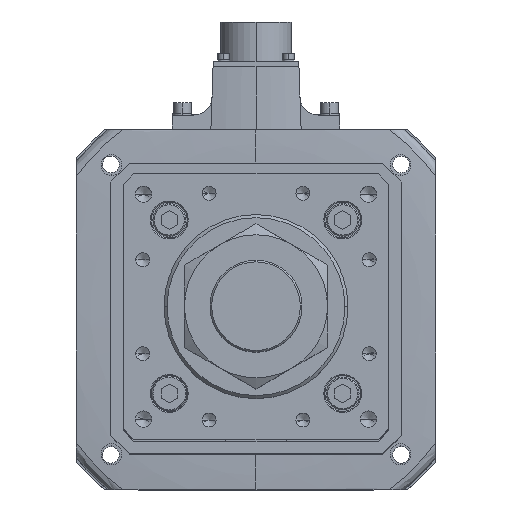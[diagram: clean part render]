
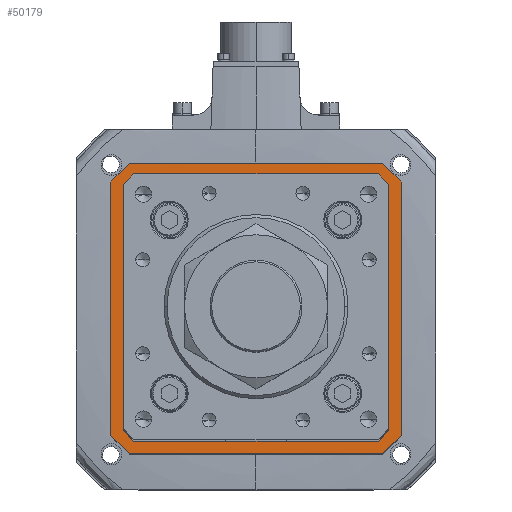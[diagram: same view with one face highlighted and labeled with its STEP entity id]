
A CAD part, top view. The second image highlights one B-rep face of the part: STEP entity #50179.
In plain terms, the highlighted planar face has unit normal (0, 0, 1).
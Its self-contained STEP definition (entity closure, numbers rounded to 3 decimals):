
#132 = DIRECTION ( 'NONE',  ( -1., 0., 0. ) ) ;
#451 = EDGE_CURVE ( 'NONE', #30905, #21221, #53821, .T. ) ;
#578 = ORIENTED_EDGE ( 'NONE', *, *, #54378, .T. ) ;
#1372 = DIRECTION ( 'NONE',  ( -0.707, -0.707, 0. ) ) ;
#1510 = EDGE_CURVE ( 'NONE', #53651, #2916, #4370, .T. ) ;
#1517 = VECTOR ( 'NONE', #3118, 1000. ) ;
#1856 = ORIENTED_EDGE ( 'NONE', *, *, #16974, .T. ) ;
#2055 = CARTESIAN_POINT ( 'NONE',  ( -60.896, 60.896, -142. ) ) ;
#2561 = LINE ( 'NONE', #8371, #11196 ) ;
#2916 = VERTEX_POINT ( 'NONE', #45771 ) ;
#3118 = DIRECTION ( 'NONE',  ( -0.707, 0.707, 0. ) ) ;
#3249 = CARTESIAN_POINT ( 'NONE',  ( 62., 71., -142. ) ) ;
#3358 = CARTESIAN_POINT ( 'NONE',  ( -62., -71., -142. ) ) ;
#3830 = CARTESIAN_POINT ( 'NONE',  ( 71., 62., -142. ) ) ;
#4078 = VERTEX_POINT ( 'NONE', #22521 ) ;
#4330 = DIRECTION ( 'NONE',  ( -0.707, 0.707, 0. ) ) ;
#4370 = LINE ( 'NONE', #52454, #12977 ) ;
#5412 = CARTESIAN_POINT ( 'NONE',  ( 71., 62., -142. ) ) ;
#5796 = ORIENTED_EDGE ( 'NONE', *, *, #54681, .F. ) ;
#6401 = LINE ( 'NONE', #28744, #39732 ) ;
#6523 = CARTESIAN_POINT ( 'NONE',  ( 60.896, 60.896, -142. ) ) ;
#6916 = DIRECTION ( 'NONE',  ( 0., 1., 0. ) ) ;
#7156 = VERTEX_POINT ( 'NONE', #34613 ) ;
#7245 = VERTEX_POINT ( 'NONE', #41891 ) ;
#7625 = CARTESIAN_POINT ( 'NONE',  ( -63., 58.793, -142. ) ) ;
#8371 = CARTESIAN_POINT ( 'NONE',  ( 0., -63., -142. ) ) ;
#8470 = VECTOR ( 'NONE', #11500, 1000. ) ;
#9877 = CARTESIAN_POINT ( 'NONE',  ( 71., -62., -142. ) ) ;
#10239 = VECTOR ( 'NONE', #27826, 1000. ) ;
#11196 = VECTOR ( 'NONE', #42686, 1000. ) ;
#11500 = DIRECTION ( 'NONE',  ( 0.707, -0.707, 0. ) ) ;
#11972 = DIRECTION ( 'NONE',  ( 0., 1., 0. ) ) ;
#12977 = VECTOR ( 'NONE', #1372, 1000. ) ;
#13801 = CARTESIAN_POINT ( 'NONE',  ( -62., 71., -142. ) ) ;
#13839 = EDGE_CURVE ( 'NONE', #30458, #42208, #49487, .T. ) ;
#13909 = AXIS2_PLACEMENT_3D ( 'NONE', #15515, #32658, #36925 ) ;
#14398 = CARTESIAN_POINT ( 'NONE',  ( -62., 71., -142. ) ) ;
#15119 = CARTESIAN_POINT ( 'NONE',  ( 63., 0., -142. ) ) ;
#15376 = EDGE_LOOP ( 'NONE', ( #578, #36917, #49768, #26969, #19725, #1856, #38672, #21386 ) ) ;
#15515 = CARTESIAN_POINT ( 'NONE',  ( 0., 0., -142. ) ) ;
#16232 = LINE ( 'NONE', #28198, #10239 ) ;
#16502 = FACE_OUTER_BOUND ( 'NONE', #35375, .T. ) ;
#16747 = VECTOR ( 'NONE', #42579, 1000. ) ;
#16974 = EDGE_CURVE ( 'NONE', #24962, #22583, #48620, .T. ) ;
#17089 = CARTESIAN_POINT ( 'NONE',  ( 63., 58.793, -142. ) ) ;
#17183 = VERTEX_POINT ( 'NONE', #24330 ) ;
#17688 = EDGE_CURVE ( 'NONE', #17183, #46154, #41870, .T. ) ;
#18629 = VECTOR ( 'NONE', #40073, 1000. ) ;
#19725 = ORIENTED_EDGE ( 'NONE', *, *, #34295, .T. ) ;
#20078 = EDGE_CURVE ( 'NONE', #22583, #17183, #16232, .T. ) ;
#20303 = VECTOR ( 'NONE', #6916, 1000. ) ;
#20974 = ORIENTED_EDGE ( 'NONE', *, *, #41421, .F. ) ;
#21221 = VERTEX_POINT ( 'NONE', #14398 ) ;
#21386 = ORIENTED_EDGE ( 'NONE', *, *, #17688, .T. ) ;
#22104 = CARTESIAN_POINT ( 'NONE',  ( 71., 62., -142. ) ) ;
#22273 = LINE ( 'NONE', #45507, #20303 ) ;
#22521 = CARTESIAN_POINT ( 'NONE',  ( 62., -71., -142. ) ) ;
#22583 = VERTEX_POINT ( 'NONE', #29540 ) ;
#22796 = LINE ( 'NONE', #25062, #1517 ) ;
#23074 = VERTEX_POINT ( 'NONE', #3249 ) ;
#24330 = CARTESIAN_POINT ( 'NONE',  ( 58.793, 63., -142. ) ) ;
#24848 = VERTEX_POINT ( 'NONE', #3358 ) ;
#24962 = VERTEX_POINT ( 'NONE', #7625 ) ;
#25062 = CARTESIAN_POINT ( 'NONE',  ( -60.896, -60.896, -142. ) ) ;
#25406 = VECTOR ( 'NONE', #132, 1000. ) ;
#26050 = EDGE_CURVE ( 'NONE', #24848, #7156, #55287, .T. ) ;
#26088 = LINE ( 'NONE', #15119, #28782 ) ;
#26969 = ORIENTED_EDGE ( 'NONE', *, *, #46651, .T. ) ;
#27389 = LINE ( 'NONE', #42319, #31419 ) ;
#27826 = DIRECTION ( 'NONE',  ( 1., 0., 0. ) ) ;
#28198 = CARTESIAN_POINT ( 'NONE',  ( 0., 63., -142. ) ) ;
#28744 = CARTESIAN_POINT ( 'NONE',  ( -63., 0., -142. ) ) ;
#28782 = VECTOR ( 'NONE', #49085, 1000. ) ;
#29203 = ORIENTED_EDGE ( 'NONE', *, *, #26050, .F. ) ;
#29255 = DIRECTION ( 'NONE',  ( 1., 0., 0. ) ) ;
#29540 = CARTESIAN_POINT ( 'NONE',  ( -58.793, 63., -142. ) ) ;
#30458 = VERTEX_POINT ( 'NONE', #22104 ) ;
#30905 = VERTEX_POINT ( 'NONE', #54580 ) ;
#31419 = VECTOR ( 'NONE', #29255, 1000. ) ;
#32187 = DIRECTION ( 'NONE',  ( 0.707, -0.707, 0. ) ) ;
#32658 = DIRECTION ( 'NONE',  ( 0., 0., 1. ) ) ;
#32809 = EDGE_CURVE ( 'NONE', #2916, #44284, #2561, .T. ) ;
#33036 = EDGE_CURVE ( 'NONE', #23074, #30458, #53934, .T. ) ;
#33115 = ORIENTED_EDGE ( 'NONE', *, *, #34869, .F. ) ;
#34189 = CARTESIAN_POINT ( 'NONE',  ( 63., -58.793, -142. ) ) ;
#34295 = EDGE_CURVE ( 'NONE', #7245, #24962, #6401, .T. ) ;
#34613 = CARTESIAN_POINT ( 'NONE',  ( -71., -62., -142. ) ) ;
#34869 = EDGE_CURVE ( 'NONE', #7156, #30905, #22273, .T. ) ;
#35210 = VECTOR ( 'NONE', #4330, 1000. ) ;
#35375 = EDGE_LOOP ( 'NONE', ( #20974, #43646, #33115, #29203, #5796, #46573, #39940, #45110 ) ) ;
#36917 = ORIENTED_EDGE ( 'NONE', *, *, #1510, .T. ) ;
#36925 = DIRECTION ( 'NONE',  ( 1., 0., 0. ) ) ;
#38672 = ORIENTED_EDGE ( 'NONE', *, *, #20078, .T. ) ;
#39144 = DIRECTION ( 'NONE',  ( 0.707, 0.707, 0. ) ) ;
#39732 = VECTOR ( 'NONE', #11972, 1000. ) ;
#39940 = ORIENTED_EDGE ( 'NONE', *, *, #13839, .F. ) ;
#40073 = DIRECTION ( 'NONE',  ( -0.707, -0.707, 0. ) ) ;
#41329 = LINE ( 'NONE', #9877, #18629 ) ;
#41421 = EDGE_CURVE ( 'NONE', #21221, #23074, #27389, .T. ) ;
#41870 = LINE ( 'NONE', #6523, #8470 ) ;
#41891 = CARTESIAN_POINT ( 'NONE',  ( -63., -58.793, -142. ) ) ;
#42208 = VERTEX_POINT ( 'NONE', #49344 ) ;
#42319 = CARTESIAN_POINT ( 'NONE',  ( 62., 71., -142. ) ) ;
#42545 = VECTOR ( 'NONE', #32187, 1000. ) ;
#42579 = DIRECTION ( 'NONE',  ( 0., -1., 0. ) ) ;
#42686 = DIRECTION ( 'NONE',  ( -1., 0., 0. ) ) ;
#42966 = EDGE_CURVE ( 'NONE', #42208, #4078, #41329, .T. ) ;
#43120 = VECTOR ( 'NONE', #39144, 1000. ) ;
#43249 = VECTOR ( 'NONE', #53143, 1000. ) ;
#43646 = ORIENTED_EDGE ( 'NONE', *, *, #451, .F. ) ;
#44284 = VERTEX_POINT ( 'NONE', #55300 ) ;
#45015 = PLANE ( 'NONE',  #13909 ) ;
#45110 = ORIENTED_EDGE ( 'NONE', *, *, #33036, .F. ) ;
#45507 = CARTESIAN_POINT ( 'NONE',  ( -71., 62., -142. ) ) ;
#45771 = CARTESIAN_POINT ( 'NONE',  ( 58.793, -63., -142. ) ) ;
#46154 = VERTEX_POINT ( 'NONE', #17089 ) ;
#46573 = ORIENTED_EDGE ( 'NONE', *, *, #42966, .F. ) ;
#46651 = EDGE_CURVE ( 'NONE', #44284, #7245, #22796, .T. ) ;
#48620 = LINE ( 'NONE', #2055, #43249 ) ;
#49085 = DIRECTION ( 'NONE',  ( 0., -1., 0. ) ) ;
#49344 = CARTESIAN_POINT ( 'NONE',  ( 71., -62., -142. ) ) ;
#49487 = LINE ( 'NONE', #3830, #16747 ) ;
#49768 = ORIENTED_EDGE ( 'NONE', *, *, #32809, .T. ) ;
#50179 = ADVANCED_FACE ( 'NONE', ( #54589, #16502 ), #45015, .T. ) ;
#51325 = CARTESIAN_POINT ( 'NONE',  ( -62., -71., -142. ) ) ;
#51408 = CARTESIAN_POINT ( 'NONE',  ( 62., -71., -142. ) ) ;
#52454 = CARTESIAN_POINT ( 'NONE',  ( 60.896, -60.896, -142. ) ) ;
#53143 = DIRECTION ( 'NONE',  ( 0.707, 0.707, 0. ) ) ;
#53519 = LINE ( 'NONE', #51408, #25406 ) ;
#53651 = VERTEX_POINT ( 'NONE', #34189 ) ;
#53821 = LINE ( 'NONE', #13801, #43120 ) ;
#53934 = LINE ( 'NONE', #5412, #42545 ) ;
#54378 = EDGE_CURVE ( 'NONE', #46154, #53651, #26088, .T. ) ;
#54580 = CARTESIAN_POINT ( 'NONE',  ( -71., 62., -142. ) ) ;
#54589 = FACE_BOUND ( 'NONE', #15376, .T. ) ;
#54681 = EDGE_CURVE ( 'NONE', #4078, #24848, #53519, .T. ) ;
#55287 = LINE ( 'NONE', #51325, #35210 ) ;
#55300 = CARTESIAN_POINT ( 'NONE',  ( -58.793, -63., -142. ) ) ;
